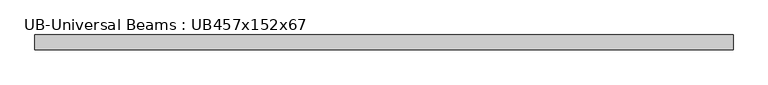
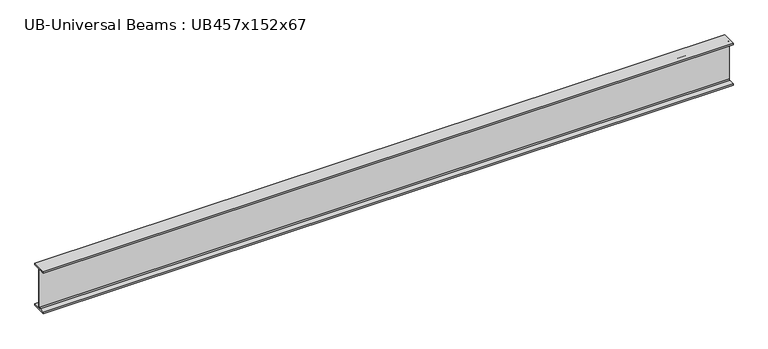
"""IFC4 building model written with IfcOpenShell, lengths in millimetres: beam geometry, UB-Universal Beams : UB457x152x67."""

from ifc_helpers import new_model, si_unit, point, frame, frame_2d, origin, place, context, project, spatial, polyline, circle_curve, trimmed, segment, composite_curve, outline, extrude, source, transform, mapped, element, save


def ub_universal_beams_ub457x152x67_b3efd6a2(model_context):
    return source(origin(), model_context, "Body", "SweptSolid", [
        extrude(outline(composite_curve([segment(polyline([(76.9, -214.0), (76.9, -229.0), (-76.9, -229.0), (-76.9, -214.0), (-14.7, -214.0)]), True, "CONTINUOUS"), segment(trimmed(circle_curve(frame_2d((-14.7, -203.8)), 10.2), [point((-14.7, -214.0))], [point((-4.5, -203.8))], True, "CARTESIAN"), True, "CONTINUOUS"), segment(polyline([(-4.5, -203.8), (-4.5, 203.8)]), True, "CONTINUOUS"), segment(trimmed(circle_curve(frame_2d((-14.7, 203.8)), 10.2), [point((-4.5, 203.8))], [point((-14.7, 214.0))], True, "CARTESIAN"), True, "CONTINUOUS"), segment(polyline([(-14.7, 214.0), (-76.9, 214.0), (-76.9, 229.0), (76.9, 229.0), (76.9, 214.0), (14.7, 214.0)]), True, "CONTINUOUS"), segment(trimmed(circle_curve(frame_2d((14.7, 203.8)), 10.2), [point((14.7, 214.0))], [point((4.5, 203.8))], True, "CARTESIAN"), True, "CONTINUOUS"), segment(polyline([(4.5, 203.8), (4.5, -203.8)]), True, "CONTINUOUS"), segment(trimmed(circle_curve(frame_2d((14.7, -203.8)), 10.2), [point((4.5, -203.8))], [point((14.7, -214.0))], True, "CARTESIAN"), True, "CONTINUOUS"), segment(polyline([(14.7, -214.0), (76.9, -214.0)]), True, "CONTINUOUS")], self_intersect=False)), frame((-3536.1, 0.0, 0.0), z_axis=(1.0, 0.0, 0.0), x_axis=(0.0, 1.0, 0.0)), (0.0, 0.0, 1.0), 7133.5),
    ])


if __name__ == "__main__":
    model = new_model("IFC4")
    model_context = context("Model", 3, world=origin())
    ifc_project = project(units=[si_unit("LENGTHUNIT", "METRE", prefix="MILLI")], contexts=[model_context])
    site = spatial("IfcSite", under=ifc_project)
    building = spatial("IfcBuilding", under=site)
    placement = place(None, origin())
    ub_universal_beams_ub457x152x67_shape = ub_universal_beams_ub457x152x67_b3efd6a2(model_context)
    element("IfcBeam", 1, ObjectType="UB-Universal Beams : UB457x152x67", at=placement, inside=building, context=model_context, shape_type="MappedRepresentation", body=[
        mapped(ub_universal_beams_ub457x152x67_shape, transform((0.0, 0.0, 0.0), x_axis=(1.0, 0.0, 0.0), y_axis=(0.0, 1.0, 0.0), z_axis=(0.0, 0.0, 1.0))),
    ])
    save(model, "model.ifc")
